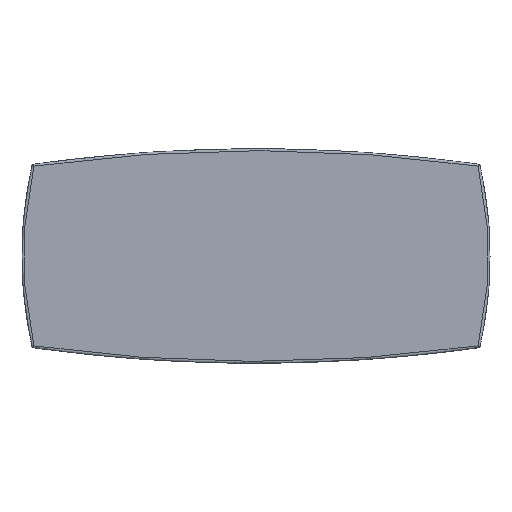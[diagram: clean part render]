
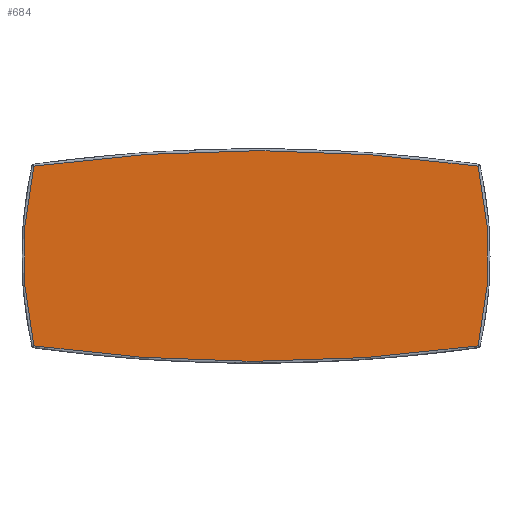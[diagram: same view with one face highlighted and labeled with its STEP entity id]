
A CAD part, top view. The second image highlights one B-rep face of the part: STEP entity #684.
In plain terms, the highlighted planar face has unit normal (0, 0, 1).
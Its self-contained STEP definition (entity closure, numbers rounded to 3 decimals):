
#684=ADVANCED_FACE('',(#1212),#7126,.T.);
#1212=FACE_OUTER_BOUND('',#1780,.T.);
#1780=EDGE_LOOP('',(#3886,#3887,#3888,#3889));
#3886=ORIENTED_EDGE('',*,*,#5027,.T.);
#3887=ORIENTED_EDGE('',*,*,#5030,.T.);
#3888=ORIENTED_EDGE('',*,*,#5017,.T.);
#3889=ORIENTED_EDGE('',*,*,#5022,.T.);
#5017=EDGE_CURVE('',#6777,#6776,#6103,.T.);
#5022=EDGE_CURVE('',#6776,#6774,#6108,.T.);
#5027=EDGE_CURVE('',#6774,#6775,#6113,.T.);
#5030=EDGE_CURVE('',#6775,#6777,#6116,.T.);
#6103=(
BOUNDED_CURVE()
B_SPLINE_CURVE(2,(#16633,#16634,#16635),.UNSPECIFIED.,.F.,.F.)
B_SPLINE_CURVE_WITH_KNOTS((3,3),(6.886,935.833),
 .UNSPECIFIED.)
CURVE()
GEOMETRIC_REPRESENTATION_ITEM()
RATIONAL_B_SPLINE_CURVE((1.,0.976,1.))
REPRESENTATION_ITEM('')
);
#6108=(
BOUNDED_CURVE()
B_SPLINE_CURVE(2,(#16647,#16648,#16649),.UNSPECIFIED.,.F.,.F.)
B_SPLINE_CURVE_WITH_KNOTS((3,3),(6.897,2291.829),
 .UNSPECIFIED.)
CURVE()
GEOMETRIC_REPRESENTATION_ITEM()
RATIONAL_B_SPLINE_CURVE((1.,0.99,1.))
REPRESENTATION_ITEM('')
);
#6113=(
BOUNDED_CURVE()
B_SPLINE_CURVE(2,(#16661,#16662,#16663),.UNSPECIFIED.,.F.,.F.)
B_SPLINE_CURVE_WITH_KNOTS((3,3),(6.886,935.833),
 .UNSPECIFIED.)
CURVE()
GEOMETRIC_REPRESENTATION_ITEM()
RATIONAL_B_SPLINE_CURVE((1.,0.976,1.))
REPRESENTATION_ITEM('')
);
#6116=(
BOUNDED_CURVE()
B_SPLINE_CURVE(2,(#16670,#16671,#16672),.UNSPECIFIED.,.F.,.F.)
B_SPLINE_CURVE_WITH_KNOTS((3,3),(6.897,2291.829),
 .UNSPECIFIED.)
CURVE()
GEOMETRIC_REPRESENTATION_ITEM()
RATIONAL_B_SPLINE_CURVE((1.,0.99,1.))
REPRESENTATION_ITEM('')
);
#6774=VERTEX_POINT('',#16590);
#6775=VERTEX_POINT('',#16591);
#6776=VERTEX_POINT('',#16592);
#6777=VERTEX_POINT('',#16593);
#7126=PLANE('',#7706);
#7706=AXIS2_PLACEMENT_3D('',#16388,#8043,$);
#8043=DIRECTION('',(0.,0.,1.));
#16388=CARTESIAN_POINT('',(6304.509,-4484.869,745.));
#16590=CARTESIAN_POINT('',(8943.296,-4258.057,745.));
#16591=CARTESIAN_POINT('',(8943.296,-3336.682,745.));
#16592=CARTESIAN_POINT('',(6665.722,-4258.057,745.));
#16593=CARTESIAN_POINT('',(6665.722,-3336.682,745.));
#16633=CARTESIAN_POINT('',(6665.722,-3336.682,745.));
#16634=CARTESIAN_POINT('',(6562.014,-3797.369,745.));
#16635=CARTESIAN_POINT('',(6665.722,-4258.057,745.));
#16647=CARTESIAN_POINT('',(6665.722,-4258.057,745.));
#16648=CARTESIAN_POINT('',(7804.509,-4417.455,745.));
#16649=CARTESIAN_POINT('',(8943.296,-4258.057,745.));
#16661=CARTESIAN_POINT('',(8943.296,-4258.057,745.));
#16662=CARTESIAN_POINT('',(9047.005,-3797.369,745.));
#16663=CARTESIAN_POINT('',(8943.296,-3336.682,745.));
#16670=CARTESIAN_POINT('',(8943.296,-3336.682,745.));
#16671=CARTESIAN_POINT('',(7804.509,-3177.284,745.));
#16672=CARTESIAN_POINT('',(6665.722,-3336.682,745.));
